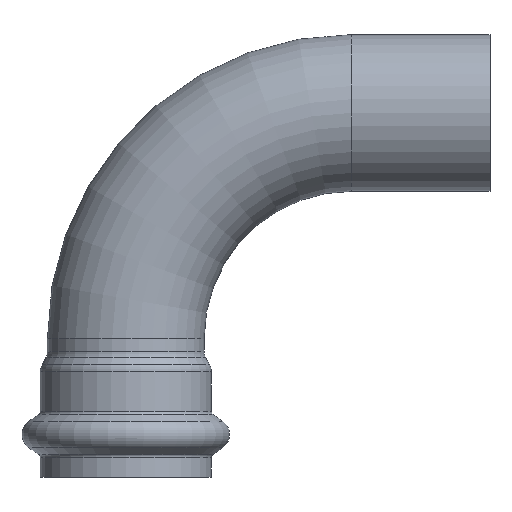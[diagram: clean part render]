
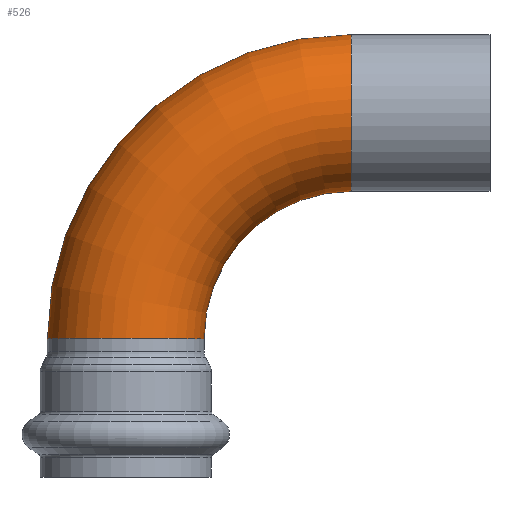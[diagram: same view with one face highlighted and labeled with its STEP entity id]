
A CAD part, top view. The second image highlights one B-rep face of the part: STEP entity #526.
In plain terms, the highlighted toroidal (fillet/blend) face has major radius 86.843 mm and minor radius 30.163 mm.
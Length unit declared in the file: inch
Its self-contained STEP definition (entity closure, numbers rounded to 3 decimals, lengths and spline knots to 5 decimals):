
#94=FACE_OUTER_BOUND('',#118,.T.);
#118=EDGE_LOOP('',(#359,#360,#361,#362,#363,#364));
#148=CIRCLE('',#576,1.1875);
#149=CIRCLE('',#577,2.2315);
#150=CIRCLE('',#578,1.1875);
#151=CIRCLE('',#579,1.1875);
#152=CIRCLE('',#580,1.1875);
#215=VERTEX_POINT('',#912);
#216=VERTEX_POINT('',#913);
#217=VERTEX_POINT('',#915);
#218=VERTEX_POINT('',#917);
#276=EDGE_CURVE('',#215,#216,#148,.T.);
#277=EDGE_CURVE('',#216,#217,#149,.T.);
#278=EDGE_CURVE('',#217,#218,#150,.T.);
#279=EDGE_CURVE('',#218,#217,#151,.T.);
#280=EDGE_CURVE('',#216,#215,#152,.T.);
#359=ORIENTED_EDGE('',*,*,#276,.T.);
#360=ORIENTED_EDGE('',*,*,#277,.T.);
#361=ORIENTED_EDGE('',*,*,#278,.T.);
#362=ORIENTED_EDGE('',*,*,#279,.T.);
#363=ORIENTED_EDGE('',*,*,#277,.F.);
#364=ORIENTED_EDGE('',*,*,#280,.T.);
#518=TOROIDAL_SURFACE('',#575,3.419,1.1875);
#526=ADVANCED_FACE('',(#94),#518,.T.);
#575=AXIS2_PLACEMENT_3D('',#911,#688,#689);
#576=AXIS2_PLACEMENT_3D('',#914,#690,#691);
#577=AXIS2_PLACEMENT_3D('',#916,#692,#693);
#578=AXIS2_PLACEMENT_3D('',#918,#694,#695);
#579=AXIS2_PLACEMENT_3D('',#919,#696,#697);
#580=AXIS2_PLACEMENT_3D('',#920,#698,#699);
#688=DIRECTION('center_axis',(0.,0.,1.));
#689=DIRECTION('ref_axis',(1.,0.,0.));
#690=DIRECTION('center_axis',(0.,1.,0.));
#691=DIRECTION('ref_axis',(1.,0.,0.));
#692=DIRECTION('center_axis',(0.,0.,-1.));
#693=DIRECTION('ref_axis',(1.,0.,0.));
#694=DIRECTION('center_axis',(-1.,0.,0.));
#695=DIRECTION('ref_axis',(0.,0.,-1.));
#696=DIRECTION('center_axis',(-1.,0.,0.));
#697=DIRECTION('ref_axis',(0.,0.,-1.));
#698=DIRECTION('center_axis',(0.,1.,0.));
#699=DIRECTION('ref_axis',(1.,0.,0.));
#911=CARTESIAN_POINT('Origin',(3.419,-3.419,0.));
#912=CARTESIAN_POINT('',(0.,-3.419,1.1875));
#913=CARTESIAN_POINT('',(1.1875,-3.419,0.));
#914=CARTESIAN_POINT('Origin',(0.,-3.419,0.));
#915=CARTESIAN_POINT('',(3.419,-1.1875,0.));
#916=CARTESIAN_POINT('Origin',(3.419,-3.419,0.));
#917=CARTESIAN_POINT('',(3.419,0.,1.1875));
#918=CARTESIAN_POINT('Origin',(3.419,0.,0.));
#919=CARTESIAN_POINT('Origin',(3.419,0.,0.));
#920=CARTESIAN_POINT('Origin',(0.,-3.419,0.));
